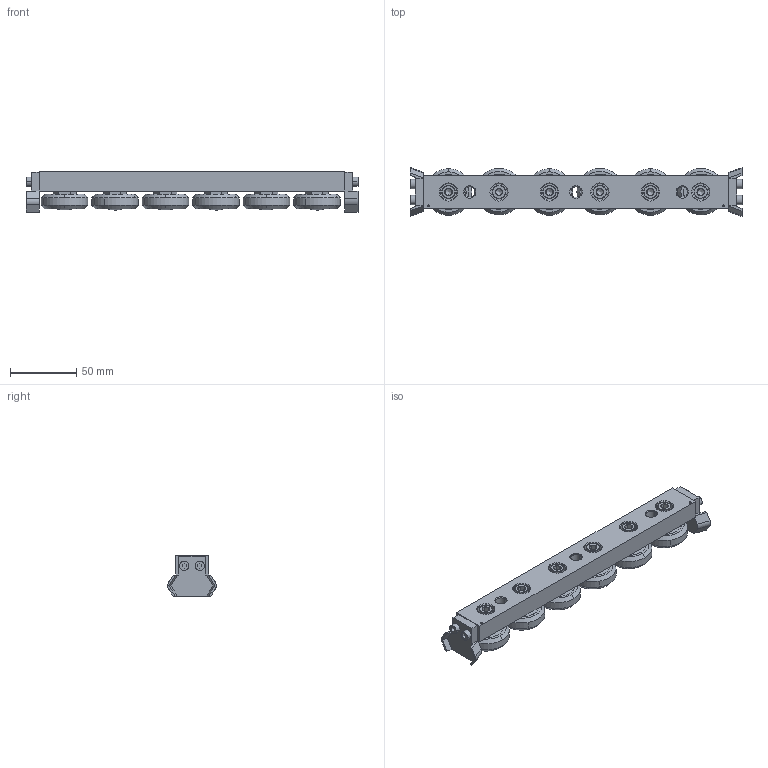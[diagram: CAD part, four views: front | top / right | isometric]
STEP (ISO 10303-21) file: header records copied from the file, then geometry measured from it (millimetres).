
FILE_DESCRIPTION (( 'STEP AP203' ), '1' );
FILE_NAME ('L1943.CSW43-230-2ZTB.step', '2019-03-13T08:18:53', ( '' ), ( '' ), 'SwSTEP 2.0', 'SolidWorks 2017', '' );
FILE_SCHEMA (( 'CONFIG_CONTROL_DESIGN' ));
Length unit declared in the file: millimetre
Products named in the file (6): Part8; L1943.CSW43-230-2ZTB; Part1_L1943.CSW43-230-2ZTB; Part6; Part3; Part2
Assembly tree (15 placements, depth 2):
  L1943.CSW43-230-2ZTB
    Part1_L1943.CSW43-230-2ZTB
    Part8  x6
    Part2  x3
    Part3  x3
    Part6  x2
Bounding box: 250 x 36.78 x 30.5 mm (x, y, z)
Volume: 146243.7 mm3; surface area: 50193.8 mm2
Topology: 15 solids, 15 shells, 561 faces, 1248 edges, 762 vertices
Faces by surface type: plane 248, cone 190, cylinder 102, torus 12, bspline 9
Entity records: 7800 total; most frequent: CARTESIAN_POINT 1404, DIRECTION 1239, ORIENTED_EDGE 1058, EDGE_CURVE 529, AXIS2_PLACEMENT_3D 478, VERTEX_POINT 335, EDGE_LOOP 288, LINE 283
